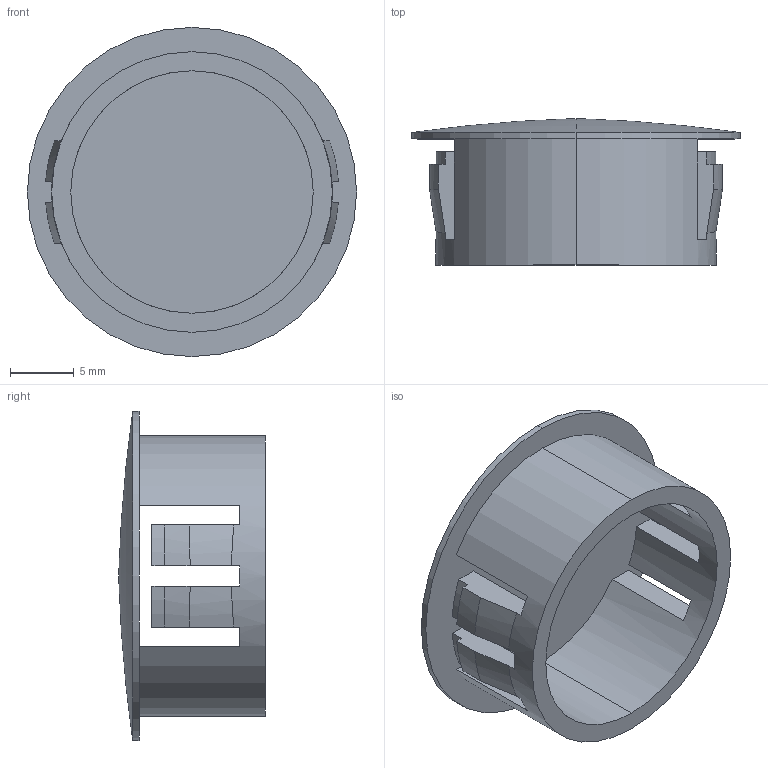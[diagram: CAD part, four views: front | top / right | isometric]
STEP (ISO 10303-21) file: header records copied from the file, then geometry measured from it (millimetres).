
FILE_DESCRIPTION (( 'STEP AP203' ), '1' );
FILE_NAME ('EBHP-11.STEP', '2013-08-03T05:00:53', ( 'SDS' ), ( 'SDS' ), 'SwSTEP 2.0', 'SolidWorks 2002296', '' );
FILE_SCHEMA (( 'CONFIG_CONTROL_DESIGN' ));
Length unit declared in the file: millimetre
Products named in the file (1): EBHP-11
Bounding box: 25.8 x 11.5 x 25.8 mm (x, y, z)
Volume: 1357.4 mm3; surface area: 2414.2 mm2
Topology: 1 solids, 1 shells, 48 faces, 142 edges, 93 vertices
Faces by surface type: plane 28, cylinder 18, torus 2
Entity records: 1703 total; most frequent: CARTESIAN_POINT 318, ORIENTED_EDGE 280, DIRECTION 276, EDGE_CURVE 140, AXIS2_PLACEMENT_3D 95, VERTEX_POINT 93, LINE 86, VECTOR 86
